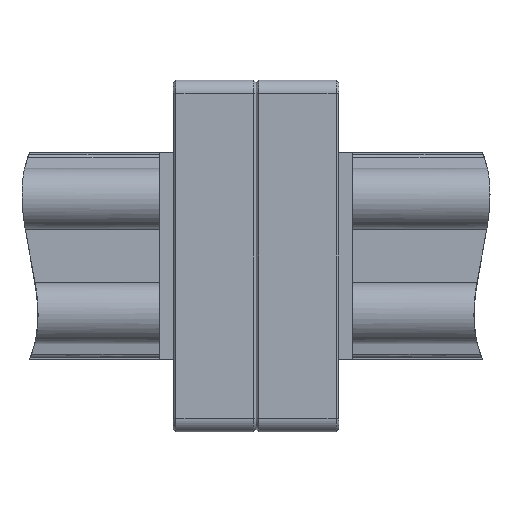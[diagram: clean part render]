
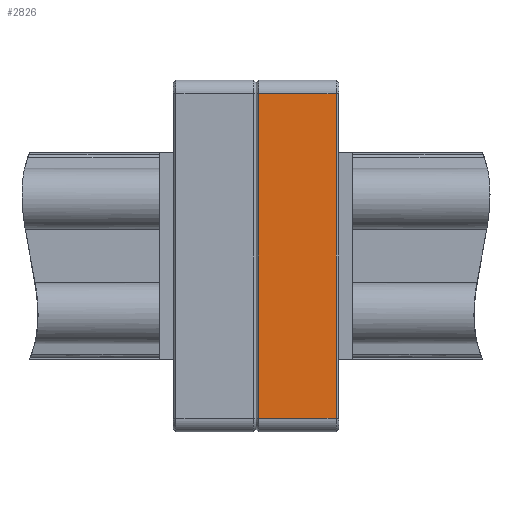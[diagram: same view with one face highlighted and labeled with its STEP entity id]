
A CAD part, front view. The second image highlights one B-rep face of the part: STEP entity #2826.
In plain terms, the highlighted planar face has unit normal (0, -1, 0).
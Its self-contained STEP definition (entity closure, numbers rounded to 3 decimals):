
#275 = VECTOR ( 'NONE', #3932, 1000. ) ;
#336 = ORIENTED_EDGE ( 'NONE', *, *, #10059, .T. ) ;
#872 = VERTEX_POINT ( 'NONE', #1318 ) ;
#901 = CARTESIAN_POINT ( 'NONE',  ( 0.2, -3.4, -11.75 ) ) ;
#1055 = LINE ( 'NONE', #10842, #10249 ) ;
#1318 = CARTESIAN_POINT ( 'NONE',  ( 5.8, -3.4, -11.75 ) ) ;
#1460 = EDGE_CURVE ( 'NONE', #5243, #3855, #5088, .T. ) ;
#1946 = DIRECTION ( 'NONE',  ( 0., 0., 1. ) ) ;
#2559 = VECTOR ( 'NONE', #7797, 1000. ) ;
#2687 = PLANE ( 'NONE',  #5805 ) ;
#2826 = ADVANCED_FACE ( 'NONE', ( #5375 ), #2687, .F. ) ;
#3022 = VERTEX_POINT ( 'NONE', #10346 ) ;
#3593 = VECTOR ( 'NONE', #10454, 1000. ) ;
#3855 = VERTEX_POINT ( 'NONE', #901 ) ;
#3932 = DIRECTION ( 'NONE',  ( 1., 0., 0. ) ) ;
#4154 = CARTESIAN_POINT ( 'NONE',  ( 0., -3.4, -11.75 ) ) ;
#4418 = DIRECTION ( 'NONE',  ( 0., 0., 1. ) ) ;
#5065 = LINE ( 'NONE', #10521, #3593 ) ;
#5088 = LINE ( 'NONE', #7917, #2559 ) ;
#5243 = VERTEX_POINT ( 'NONE', #7025 ) ;
#5375 = FACE_OUTER_BOUND ( 'NONE', #11058, .T. ) ;
#5805 = AXIS2_PLACEMENT_3D ( 'NONE', #10697, #7960, #4418 ) ;
#6814 = EDGE_CURVE ( 'NONE', #872, #3022, #1055, .T. ) ;
#7025 = CARTESIAN_POINT ( 'NONE',  ( 0.2, -3.4, 11.75 ) ) ;
#7797 = DIRECTION ( 'NONE',  ( 0., 0., -1. ) ) ;
#7917 = CARTESIAN_POINT ( 'NONE',  ( 0.2, -3.4, -11.75 ) ) ;
#7960 = DIRECTION ( 'NONE',  ( 0., 1., 0. ) ) ;
#8287 = ORIENTED_EDGE ( 'NONE', *, *, #9666, .T. ) ;
#9282 = ORIENTED_EDGE ( 'NONE', *, *, #1460, .T. ) ;
#9666 = EDGE_CURVE ( 'NONE', #3855, #872, #11226, .T. ) ;
#10059 = EDGE_CURVE ( 'NONE', #3022, #5243, #5065, .T. ) ;
#10249 = VECTOR ( 'NONE', #1946, 1000. ) ;
#10346 = CARTESIAN_POINT ( 'NONE',  ( 5.8, -3.4, 11.75 ) ) ;
#10381 = ORIENTED_EDGE ( 'NONE', *, *, #6814, .T. ) ;
#10454 = DIRECTION ( 'NONE',  ( -1., 0., 0. ) ) ;
#10521 = CARTESIAN_POINT ( 'NONE',  ( 0., -3.4, 11.75 ) ) ;
#10697 = CARTESIAN_POINT ( 'NONE',  ( 0., -3.4, 12.75 ) ) ;
#10842 = CARTESIAN_POINT ( 'NONE',  ( 5.8, -3.4, 12.75 ) ) ;
#11058 = EDGE_LOOP ( 'NONE', ( #336, #9282, #8287, #10381 ) ) ;
#11226 = LINE ( 'NONE', #4154, #275 ) ;
